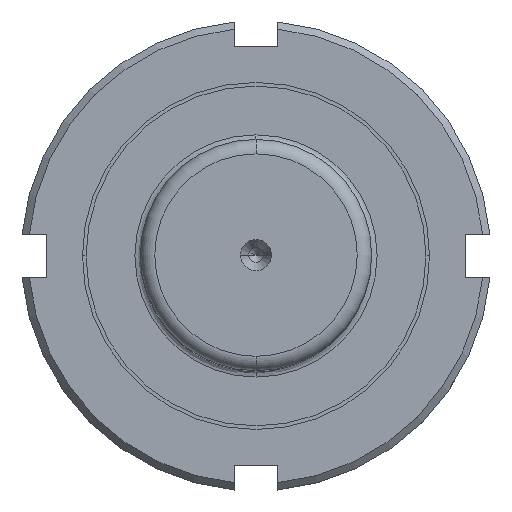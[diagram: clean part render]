
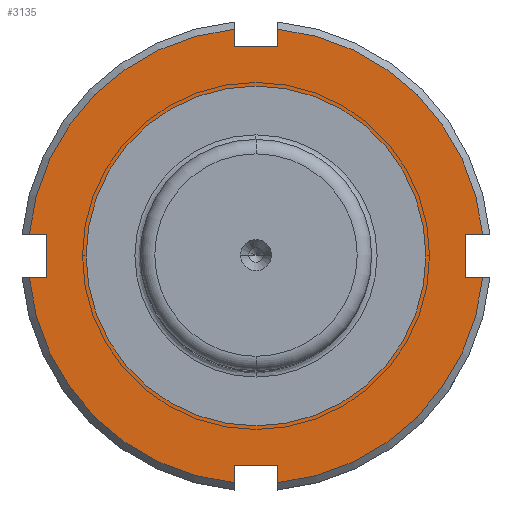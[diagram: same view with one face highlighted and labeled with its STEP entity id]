
A CAD part, top view. The second image highlights one B-rep face of the part: STEP entity #3135.
In plain terms, the highlighted planar face has unit normal (0, 0, 1).
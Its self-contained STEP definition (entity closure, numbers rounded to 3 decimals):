
#2227=CARTESIAN_POINT('',(0.0,23.5,38.0));
#2228=VERTEX_POINT('',#2227);
#2244=CARTESIAN_POINT('',(0.,-23.5,38.0));
#2245=VERTEX_POINT('',#2244);
#2252=CARTESIAN_POINT('',(0.0,0.0,38.0));
#2253=DIRECTION('',(0.0,0.0,-1.0));
#2254=DIRECTION('',(0.0,1.0,0.0));
#2255=AXIS2_PLACEMENT_3D('',#2252,#2253,#2254);
#2256=CIRCLE('',#2255,23.5);
#2257=EDGE_CURVE('',#2228,#2245,#2256,.T.);
#2292=CARTESIAN_POINT('',(-29.0,3.,38.));
#2293=VERTEX_POINT('',#2292);
#2300=CARTESIAN_POINT('',(-31.357,3.,38.));
#2301=VERTEX_POINT('',#2300);
#2302=CARTESIAN_POINT('',(-31.357,3.,38.));
#2303=DIRECTION('',(1.0,0.0,0.0));
#2304=VECTOR('',#2303,2.357);
#2305=LINE('',#2302,#2304);
#2306=EDGE_CURVE('',#2301,#2293,#2305,.T.);
#2362=CARTESIAN_POINT('',(-31.357,-3.,38.0));
#2363=VERTEX_POINT('',#2362);
#2377=CARTESIAN_POINT('',(-29.0,-3.,38.));
#2378=VERTEX_POINT('',#2377);
#2379=CARTESIAN_POINT('',(-29.0,-3.,38.));
#2380=DIRECTION('',(-1.0,0.0,0.0));
#2381=VECTOR('',#2380,2.357);
#2382=LINE('',#2379,#2381);
#2383=EDGE_CURVE('',#2378,#2363,#2382,.T.);
#2414=CARTESIAN_POINT('',(-29.0,3.,38.));
#2415=DIRECTION('',(0.0,-1.0,0.0));
#2416=VECTOR('',#2415,6.0);
#2417=LINE('',#2414,#2416);
#2418=EDGE_CURVE('',#2293,#2378,#2417,.T.);
#2454=CARTESIAN_POINT('',(-3.,-29.0,38.0));
#2455=VERTEX_POINT('',#2454);
#2462=CARTESIAN_POINT('',(-3.,-31.357,38.0));
#2463=VERTEX_POINT('',#2462);
#2464=CARTESIAN_POINT('',(-3.,-31.357,38.0));
#2465=DIRECTION('',(0.0,1.0,0.0));
#2466=VECTOR('',#2465,2.357);
#2467=LINE('',#2464,#2466);
#2468=EDGE_CURVE('',#2463,#2455,#2467,.T.);
#2524=CARTESIAN_POINT('',(3.,-31.357,38.0));
#2525=VERTEX_POINT('',#2524);
#2539=CARTESIAN_POINT('',(3.,-29.0,38.0));
#2540=VERTEX_POINT('',#2539);
#2541=CARTESIAN_POINT('',(3.,-29.0,38.0));
#2542=DIRECTION('',(0.0,-1.0,0.0));
#2543=VECTOR('',#2542,2.357);
#2544=LINE('',#2541,#2543);
#2545=EDGE_CURVE('',#2540,#2525,#2544,.T.);
#2576=CARTESIAN_POINT('',(-3.,-29.0,38.0));
#2577=DIRECTION('',(1.0,0.0,0.0));
#2578=VECTOR('',#2577,6.0);
#2579=LINE('',#2576,#2578);
#2580=EDGE_CURVE('',#2455,#2540,#2579,.T.);
#2616=CARTESIAN_POINT('',(29.0,-3.,38.));
#2617=VERTEX_POINT('',#2616);
#2624=CARTESIAN_POINT('',(31.357,-3.,38.));
#2625=VERTEX_POINT('',#2624);
#2626=CARTESIAN_POINT('',(31.357,-3.,38.));
#2627=DIRECTION('',(-1.0,0.0,0.0));
#2628=VECTOR('',#2627,2.357);
#2629=LINE('',#2626,#2628);
#2630=EDGE_CURVE('',#2625,#2617,#2629,.T.);
#2686=CARTESIAN_POINT('',(31.357,3.,38.0));
#2687=VERTEX_POINT('',#2686);
#2701=CARTESIAN_POINT('',(29.0,3.,38.));
#2702=VERTEX_POINT('',#2701);
#2703=CARTESIAN_POINT('',(29.0,3.,38.));
#2704=DIRECTION('',(1.0,0.0,0.0));
#2705=VECTOR('',#2704,2.357);
#2706=LINE('',#2703,#2705);
#2707=EDGE_CURVE('',#2702,#2687,#2706,.T.);
#2738=CARTESIAN_POINT('',(29.0,-3.,38.));
#2739=DIRECTION('',(0.0,1.0,0.0));
#2740=VECTOR('',#2739,6.0);
#2741=LINE('',#2738,#2740);
#2742=EDGE_CURVE('',#2617,#2702,#2741,.T.);
#2778=CARTESIAN_POINT('',(3.0,29.0,38.0));
#2779=VERTEX_POINT('',#2778);
#2786=CARTESIAN_POINT('',(3.0,31.357,38.0));
#2787=VERTEX_POINT('',#2786);
#2788=CARTESIAN_POINT('',(3.0,31.357,38.0));
#2789=DIRECTION('',(0.0,-1.0,0.0));
#2790=VECTOR('',#2789,2.357);
#2791=LINE('',#2788,#2790);
#2792=EDGE_CURVE('',#2787,#2779,#2791,.T.);
#2848=CARTESIAN_POINT('',(-3.0,31.357,38.0));
#2849=VERTEX_POINT('',#2848);
#2863=CARTESIAN_POINT('',(-3.0,29.0,38.0));
#2864=VERTEX_POINT('',#2863);
#2865=CARTESIAN_POINT('',(-3.0,29.0,38.0));
#2866=DIRECTION('',(0.0,1.0,0.0));
#2867=VECTOR('',#2866,2.357);
#2868=LINE('',#2865,#2867);
#2869=EDGE_CURVE('',#2864,#2849,#2868,.T.);
#2900=CARTESIAN_POINT('',(3.0,29.0,38.0));
#2901=DIRECTION('',(-1.0,0.0,0.0));
#2902=VECTOR('',#2901,6.0);
#2903=LINE('',#2900,#2902);
#2904=EDGE_CURVE('',#2779,#2864,#2903,.T.);
#3078=CARTESIAN_POINT('',(0.0,27.5,38.0));
#3079=DIRECTION('',(0.0,0.0,1.0));
#3080=DIRECTION('',(1.0,0.0,0.0));
#3081=AXIS2_PLACEMENT_3D('',#3078,#3079,#3080);
#3082=PLANE('',#3081);
#3083=ORIENTED_EDGE('',*,*,#2306,.T.);
#3084=ORIENTED_EDGE('',*,*,#2418,.T.);
#3085=ORIENTED_EDGE('',*,*,#2383,.T.);
#3086=CARTESIAN_POINT('',(0.0,0.0,38.0));
#3087=DIRECTION('',(0.0,0.0,-1.0));
#3088=DIRECTION('',(0.0,1.0,0.0));
#3089=AXIS2_PLACEMENT_3D('',#3086,#3087,#3088);
#3090=CIRCLE('',#3089,31.5);
#3091=EDGE_CURVE('',#2463,#2363,#3090,.T.);
#3092=ORIENTED_EDGE('',*,*,#3091,.F.);
#3093=ORIENTED_EDGE('',*,*,#2468,.T.);
#3094=ORIENTED_EDGE('',*,*,#2580,.T.);
#3095=ORIENTED_EDGE('',*,*,#2545,.T.);
#3096=CARTESIAN_POINT('',(0.0,0.0,38.0));
#3097=DIRECTION('',(0.0,0.0,-1.0));
#3098=DIRECTION('',(0.0,1.0,0.0));
#3099=AXIS2_PLACEMENT_3D('',#3096,#3097,#3098);
#3100=CIRCLE('',#3099,31.5);
#3101=EDGE_CURVE('',#2625,#2525,#3100,.T.);
#3102=ORIENTED_EDGE('',*,*,#3101,.F.);
#3103=ORIENTED_EDGE('',*,*,#2630,.T.);
#3104=ORIENTED_EDGE('',*,*,#2742,.T.);
#3105=ORIENTED_EDGE('',*,*,#2707,.T.);
#3106=CARTESIAN_POINT('',(0.0,0.0,38.0));
#3107=DIRECTION('',(0.0,0.0,-1.0));
#3108=DIRECTION('',(0.0,1.0,0.0));
#3109=AXIS2_PLACEMENT_3D('',#3106,#3107,#3108);
#3110=CIRCLE('',#3109,31.5);
#3111=EDGE_CURVE('',#2787,#2687,#3110,.T.);
#3112=ORIENTED_EDGE('',*,*,#3111,.F.);
#3113=ORIENTED_EDGE('',*,*,#2792,.T.);
#3114=ORIENTED_EDGE('',*,*,#2904,.T.);
#3115=ORIENTED_EDGE('',*,*,#2869,.T.);
#3116=CARTESIAN_POINT('',(0.0,0.0,38.0));
#3117=DIRECTION('',(0.0,0.0,-1.0));
#3118=DIRECTION('',(0.0,1.0,0.0));
#3119=AXIS2_PLACEMENT_3D('',#3116,#3117,#3118);
#3120=CIRCLE('',#3119,31.5);
#3121=EDGE_CURVE('',#2301,#2849,#3120,.T.);
#3122=ORIENTED_EDGE('',*,*,#3121,.F.);
#3123=EDGE_LOOP('',(#3083,#3084,#3085,#3092,#3093,#3094,#3095,#3102,#3103,#3104,#3105,#3112,#3113,#3114,#3115,#3122));
#3124=FACE_OUTER_BOUND('',#3123,.T.);
#3125=ORIENTED_EDGE('',*,*,#2257,.T.);
#3126=CARTESIAN_POINT('',(0.0,0.0,38.0));
#3127=DIRECTION('',(0.0,0.0,-1.0));
#3128=DIRECTION('',(0.0,1.0,0.0));
#3129=AXIS2_PLACEMENT_3D('',#3126,#3127,#3128);
#3130=CIRCLE('',#3129,23.5);
#3131=EDGE_CURVE('',#2245,#2228,#3130,.T.);
#3132=ORIENTED_EDGE('',*,*,#3131,.T.);
#3133=EDGE_LOOP('',(#3125,#3132));
#3134=FACE_BOUND('',#3133,.T.);
#3135=ADVANCED_FACE('',(#3124,#3134),#3082,.T.);
